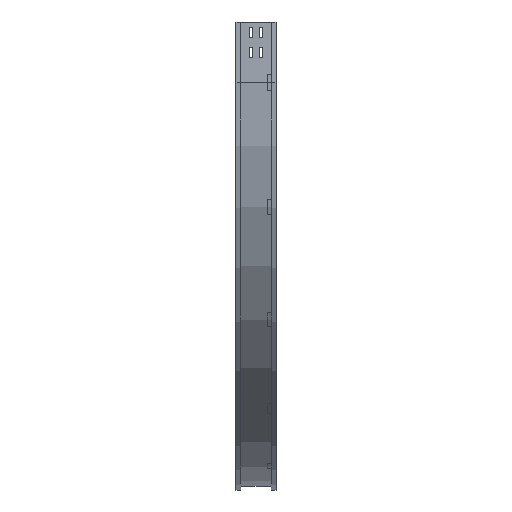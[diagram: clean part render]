
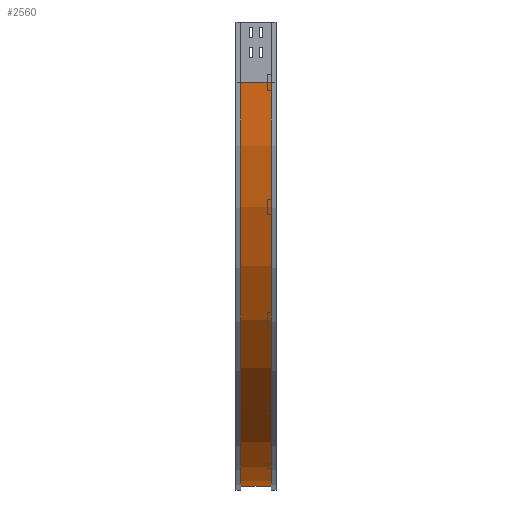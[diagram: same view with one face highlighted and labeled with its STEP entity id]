
A CAD part, left-side view. The second image highlights one B-rep face of the part: STEP entity #2560.
In plain terms, the highlighted cylindrical face has radius 1000 mm (diameter 2000 mm), a partial arc.
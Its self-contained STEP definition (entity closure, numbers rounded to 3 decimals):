
#18 = EDGE_LOOP ( 'NONE', ( #2569, #1322, #2618, #3587 ) ) ;
#108 = AXIS2_PLACEMENT_3D ( 'NONE', #2048, #3803, #1328 ) ;
#265 = CARTESIAN_POINT ( 'NONE',  ( 1009., 12., -1150. ) ) ;
#305 = CARTESIAN_POINT ( 'NONE',  ( 1009., 12., -1150. ) ) ;
#370 = CARTESIAN_POINT ( 'NONE',  ( 1009., 0., -150. ) ) ;
#386 = CYLINDRICAL_SURFACE ( 'NONE', #3768, 1000. ) ;
#848 = CIRCLE ( 'NONE', #3484, 1000. ) ;
#911 = EDGE_CURVE ( 'NONE', #2497, #1959, #2139, .T. ) ;
#983 = CIRCLE ( 'NONE', #108, 1000. ) ;
#1054 = DIRECTION ( 'NONE',  ( 0., -1., 0. ) ) ;
#1281 = VECTOR ( 'NONE', #1054, 1000. ) ;
#1322 = ORIENTED_EDGE ( 'NONE', *, *, #911, .F. ) ;
#1328 = DIRECTION ( 'NONE',  ( -1., 0., 0. ) ) ;
#1418 = DIRECTION ( 'NONE',  ( 0., 0., -1. ) ) ;
#1477 = VERTEX_POINT ( 'NONE', #265 ) ;
#1772 = DIRECTION ( 'NONE',  ( 0., -1., 0. ) ) ;
#1959 = VERTEX_POINT ( 'NONE', #3694 ) ;
#2048 = CARTESIAN_POINT ( 'NONE',  ( 1009., 88., -150. ) ) ;
#2083 = CARTESIAN_POINT ( 'NONE',  ( 9., 88., -150. ) ) ;
#2139 = LINE ( 'NONE', #3822, #1281 ) ;
#2490 = DIRECTION ( 'NONE',  ( 0., -1., 0. ) ) ;
#2497 = VERTEX_POINT ( 'NONE', #2083 ) ;
#2560 = ADVANCED_FACE ( 'NONE', ( #3843 ), #386, .T. ) ;
#2569 = ORIENTED_EDGE ( 'NONE', *, *, #3626, .F. ) ;
#2618 = ORIENTED_EDGE ( 'NONE', *, *, #3144, .T. ) ;
#2840 = EDGE_CURVE ( 'NONE', #4366, #1477, #3440, .T. ) ;
#3005 = CARTESIAN_POINT ( 'NONE',  ( 1009., 88., -1150. ) ) ;
#3065 = CARTESIAN_POINT ( 'NONE',  ( 1009., 12., -150. ) ) ;
#3144 = EDGE_CURVE ( 'NONE', #2497, #4366, #983, .T. ) ;
#3432 = DIRECTION ( 'NONE',  ( -1., 0., 0. ) ) ;
#3440 = LINE ( 'NONE', #305, #4275 ) ;
#3484 = AXIS2_PLACEMENT_3D ( 'NONE', #3065, #4460, #3432 ) ;
#3587 = ORIENTED_EDGE ( 'NONE', *, *, #2840, .T. ) ;
#3626 = EDGE_CURVE ( 'NONE', #1959, #1477, #848, .T. ) ;
#3694 = CARTESIAN_POINT ( 'NONE',  ( 9., 12., -150. ) ) ;
#3768 = AXIS2_PLACEMENT_3D ( 'NONE', #370, #1772, #1418 ) ;
#3803 = DIRECTION ( 'NONE',  ( 0., -1., 0. ) ) ;
#3822 = CARTESIAN_POINT ( 'NONE',  ( 9., 12., -150. ) ) ;
#3843 = FACE_OUTER_BOUND ( 'NONE', #18, .T. ) ;
#4275 = VECTOR ( 'NONE', #2490, 1000. ) ;
#4366 = VERTEX_POINT ( 'NONE', #3005 ) ;
#4460 = DIRECTION ( 'NONE',  ( 0., -1., 0. ) ) ;
